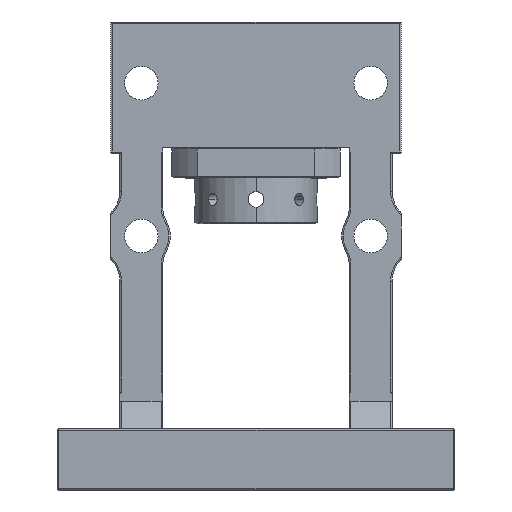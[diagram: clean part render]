
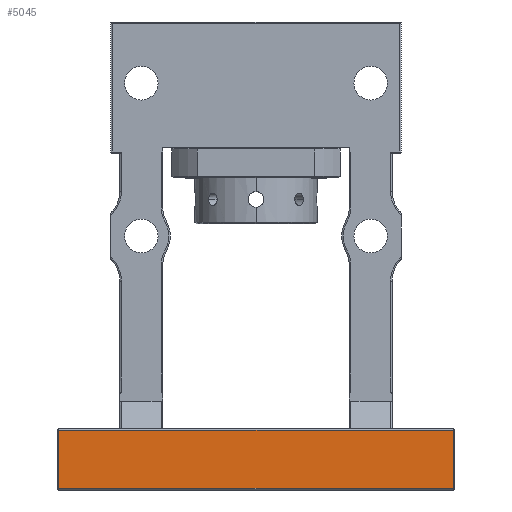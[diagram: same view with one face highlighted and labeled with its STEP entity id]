
A CAD part, front view. The second image highlights one B-rep face of the part: STEP entity #5045.
In plain terms, the highlighted planar face has unit normal (0, -1, 0).
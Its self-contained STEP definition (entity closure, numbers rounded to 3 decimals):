
#34 = EDGE_LOOP ( 'NONE', ( #951, #10216, #271, #7598 ) ) ;
#210 = VERTEX_POINT ( 'NONE', #9740 ) ;
#271 = ORIENTED_EDGE ( 'NONE', *, *, #2112, .T. ) ;
#951 = ORIENTED_EDGE ( 'NONE', *, *, #5401, .T. ) ;
#1983 = VERTEX_POINT ( 'NONE', #2140 ) ;
#2112 = EDGE_CURVE ( 'NONE', #1983, #3686, #6963, .T. ) ;
#2140 = CARTESIAN_POINT ( 'NONE',  ( -64.5, -65., -143.5 ) ) ;
#2311 = CARTESIAN_POINT ( 'NONE',  ( 65., -65., -143.5 ) ) ;
#2698 = CARTESIAN_POINT ( 'NONE',  ( -64.5, -65., -124.5 ) ) ;
#3686 = VERTEX_POINT ( 'NONE', #10544 ) ;
#4384 = VECTOR ( 'NONE', #5288, 1000. ) ;
#4564 = CARTESIAN_POINT ( 'NONE',  ( -64.5, -65., -124. ) ) ;
#4584 = VECTOR ( 'NONE', #5098, 1000. ) ;
#5016 = DIRECTION ( 'NONE',  ( 0., 1., 0. ) ) ;
#5045 = ADVANCED_FACE ( 'NONE', ( #7974 ), #11728, .F. ) ;
#5055 = CARTESIAN_POINT ( 'NONE',  ( 64.5, -65., -124. ) ) ;
#5098 = DIRECTION ( 'NONE',  ( 0., 0., 1. ) ) ;
#5288 = DIRECTION ( 'NONE',  ( 1., 0., 0. ) ) ;
#5401 = EDGE_CURVE ( 'NONE', #210, #10218, #12546, .T. ) ;
#5761 = DIRECTION ( 'NONE',  ( -1., 0., 0. ) ) ;
#6344 = AXIS2_PLACEMENT_3D ( 'NONE', #10810, #5016, #11766 ) ;
#6963 = LINE ( 'NONE', #2311, #4384 ) ;
#7540 = EDGE_CURVE ( 'NONE', #3686, #210, #9725, .T. ) ;
#7598 = ORIENTED_EDGE ( 'NONE', *, *, #7540, .T. ) ;
#7896 = VECTOR ( 'NONE', #8435, 1000. ) ;
#7974 = FACE_OUTER_BOUND ( 'NONE', #34, .T. ) ;
#8435 = DIRECTION ( 'NONE',  ( 0., 0., -1. ) ) ;
#9666 = VECTOR ( 'NONE', #5761, 1000. ) ;
#9725 = LINE ( 'NONE', #5055, #4584 ) ;
#9740 = CARTESIAN_POINT ( 'NONE',  ( 64.5, -65., -124.5 ) ) ;
#10155 = EDGE_CURVE ( 'NONE', #10218, #1983, #10492, .T. ) ;
#10216 = ORIENTED_EDGE ( 'NONE', *, *, #10155, .T. ) ;
#10218 = VERTEX_POINT ( 'NONE', #2698 ) ;
#10492 = LINE ( 'NONE', #4564, #7896 ) ;
#10544 = CARTESIAN_POINT ( 'NONE',  ( 64.5, -65., -143.5 ) ) ;
#10568 = CARTESIAN_POINT ( 'NONE',  ( -65., -65., -124.5 ) ) ;
#10810 = CARTESIAN_POINT ( 'NONE',  ( 65., -65., -124. ) ) ;
#11728 = PLANE ( 'NONE',  #6344 ) ;
#11766 = DIRECTION ( 'NONE',  ( -1., 0., 0. ) ) ;
#12546 = LINE ( 'NONE', #10568, #9666 ) ;
